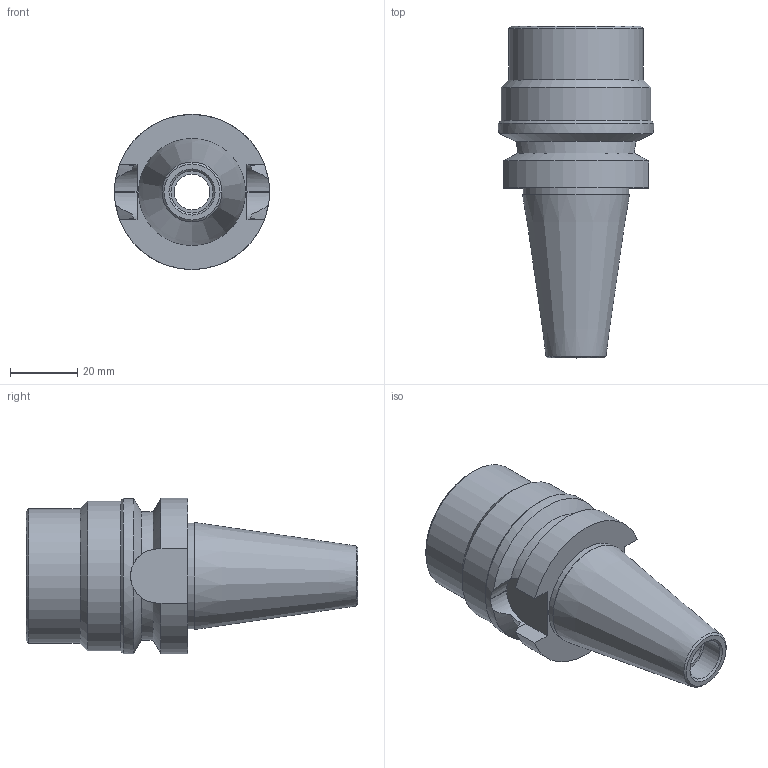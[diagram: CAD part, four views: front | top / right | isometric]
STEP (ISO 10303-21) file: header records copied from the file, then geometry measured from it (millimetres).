
FILE_DESCRIPTION(/* description */ ('STEP AP214'),/* implementation_level */ '2;1');
FILE_NAME(/* name */ '6094921c9ecec20f3f078a70',/* time_stamp */ '2021-05-07T01:04:29+00:00',/* author */ (''),/* organization */ (''),/* preprocessor_version */ 'ST-DEVELOPER v18.1',/* originating_system */ ' ',/* authorisation */ ' ');
FILE_SCHEMA (('AUTOMOTIVE_DESIGN {1 0 10303 214 3 1 1}'));
Length unit declared in the file: metre
Products named in the file (1): BT30-ER32-60 Collet Holder Body
Bounding box: 46 x 98.4 x 46 mm (x, y, z)
Volume: 61899.3 mm3; surface area: 18375.9 mm2
Topology: 1 solids, 1 shells, 41 faces, 100 edges, 64 vertices
Faces by surface type: cylinder 15, cone 13, plane 13
Full cylindrical faces by diameter (mm): 10.5 x1, 12.5 x1, 25 x1, 31.25 x1, 40 x1, 44.45 x1, 46 x1
Entity records: 1148 total; most frequent: CARTESIAN_POINT 246, DIRECTION 180, ORIENTED_EDGE 160, EDGE_CURVE 80, AXIS2_PLACEMENT_3D 78, EDGE_LOOP 62, FACE_BOUND 62, VERTEX_POINT 60
